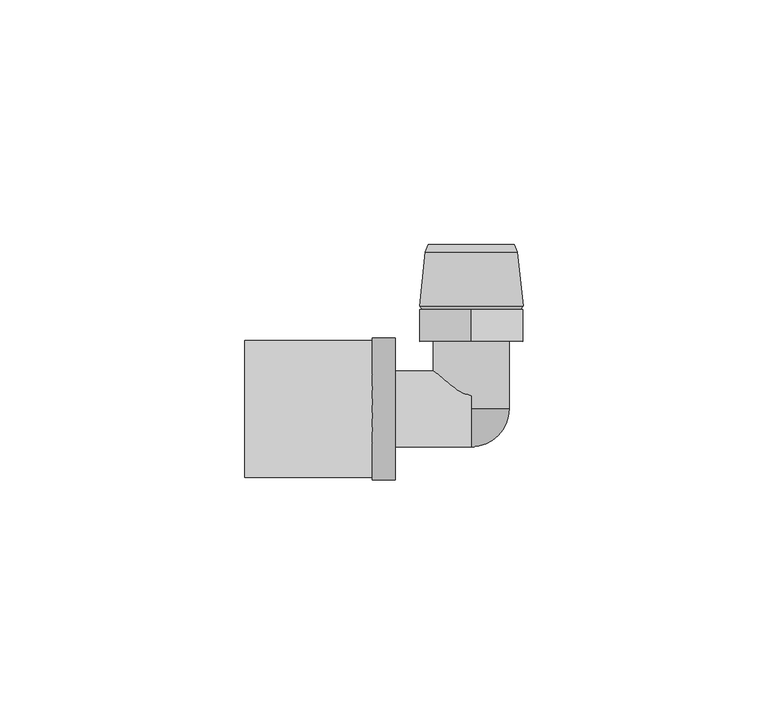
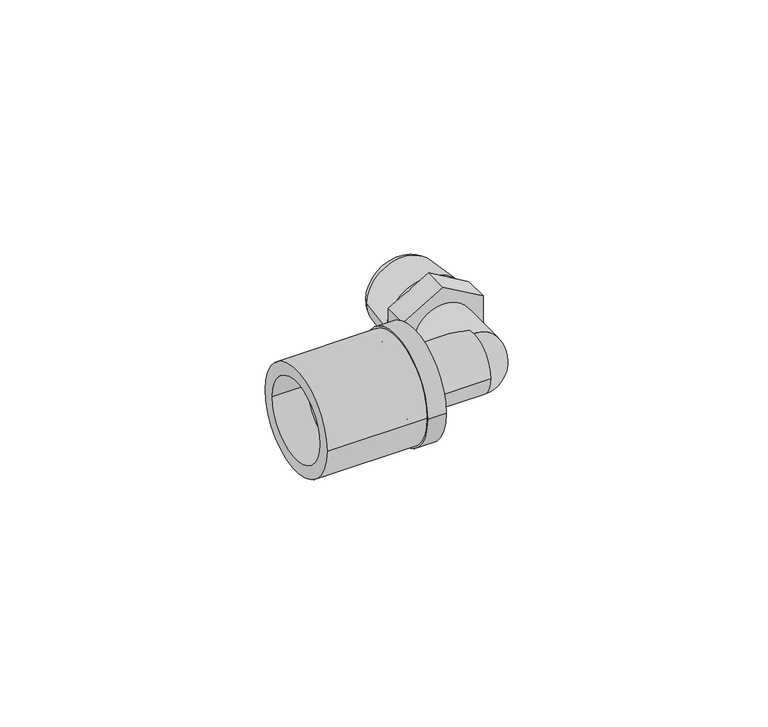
"""IFC4 building model written with IfcOpenShell, lengths in millimetres: pipe fitting geometry, FASTLOC_Elbow with male thread LX : FSL A internal CZ."""

from ifc_helpers import new_model, si_unit, point, frame, origin, origin_2d, place, context, project, spatial, polyline, circle_curve, ellipse_curve, trimmed, segment, composite_curve, outline, extrude, source, transform, mapped, element, save
from ifc_brep_helpers import plane_surface, cylinder_surface, revolved_surface, advanced_brep


def pipe_fitting_310333dd(model_context):
    return source(origin(), model_context, "Body", "SolidModel", [
        extrude(outline(composite_curve([segment(trimmed(circle_curve(origin_2d(), 14.0), [point((14.0, 0.0))], [point((-14.0, 0.0))], False, "CARTESIAN"), True, "CONTINUOUS"), segment(trimmed(circle_curve(origin_2d(), 14.0), [point((-14.0, 0.0))], [point((14.0, 0.0))], False, "CARTESIAN"), True, "CONTINUOUS")], self_intersect=False), holes=[composite_curve([segment(trimmed(circle_curve(origin_2d(), 10.7), [point((10.7, 0.0))], [point((-10.7, 0.0))], True, "CARTESIAN"), True, "CONTINUOUS"), segment(trimmed(circle_curve(origin_2d(), 10.7), [point((-10.7, 0.0))], [point((10.7, 0.0))], True, "CARTESIAN"), True, "CONTINUOUS")], self_intersect=False)]), frame((-46.2, 0.0, 0.0), z_axis=(1.0, 0.0, 0.0), x_axis=(0.0, 1.0, 0.0)), (0.0, 0.0, 1.0), 26.0),
        advanced_brep(
        [(-20.2, -14.5, 0.0), (-20.2, 14.5, 0.0), (-15.5, 14.5, 0.0), (-15.5, -14.5, 0.0), (-37.2, -11.85, 0.0), (-37.2, 11.85, 0.0), (-20.2, 11.85, 0.0), (-20.2, -11.85, 0.0), (-15.5, -10.15, 0.0), (-15.5, 10.15, 0.0), (-37.2, 10.15, 0.0), (-37.2, -10.15, 0.0)],
        [
            (0, 1, circle_curve(frame((-20.2, 0.0, 0.0), z_axis=(1.0, 0.0, 0.0), x_axis=(0.0, 1.0, 0.0)), 14.5)),
            (1, 2),
            (2, 3, circle_curve(frame((-15.5, 0.0, 0.0), z_axis=(-1.0, 0.0, 0.0), x_axis=(0.0, 1.0, 0.0)), 14.5)),
            (3, 0),
            (4, 5, circle_curve(frame((-37.2, 0.0, 0.0), z_axis=(1.0, 0.0, 0.0), x_axis=(0.0, 1.0, 0.0)), 11.85)),
            (5, 6),
            (6, 7, circle_curve(frame((-20.2, 0.0, 0.0), z_axis=(-1.0, 0.0, 0.0), x_axis=(0.0, 1.0, 0.0)), 11.85)),
            (7, 4),
            (8, 9, circle_curve(frame((-15.5, 0.0, 0.0), z_axis=(1.0, 0.0, 0.0), x_axis=(0.0, 1.0, 0.0)), 10.15)),
            (9, 10),
            (10, 11, circle_curve(frame((-37.2, 0.0, 0.0), z_axis=(-1.0, 0.0, 0.0), x_axis=(0.0, 1.0, 0.0)), 10.15)),
            (11, 8),
            (1, 0, circle_curve(frame((-20.2, 0.0, 0.0), z_axis=(1.0, 0.0, 0.0), x_axis=(0.0, -1.0, 0.0)), 14.5)),
            (3, 2, circle_curve(frame((-15.5, 0.0, 0.0), z_axis=(-1.0, 0.0, 0.0), x_axis=(0.0, -1.0, 0.0)), 14.5)),
            (6, 7, circle_curve(frame((-20.2, 0.0, 0.0), z_axis=(1.0, 0.0, 0.0), x_axis=(0.0, -1.0, 0.0)), 11.85)),
            (5, 4, circle_curve(frame((-37.2, 0.0, 0.0), z_axis=(1.0, 0.0, 0.0), x_axis=(0.0, -1.0, 0.0)), 11.85)),
            (10, 11, circle_curve(frame((-37.2, 0.0, 0.0), z_axis=(1.0, 0.0, 0.0), x_axis=(0.0, -1.0, 0.0)), 10.15)),
            (9, 8, circle_curve(frame((-15.5, 0.0, 0.0), z_axis=(1.0, 0.0, 0.0), x_axis=(0.0, -1.0, 0.0)), 10.15)),
        ],
        [
            cylinder_surface(frame((-15.5, 0.0, 0.0), z_axis=(-1.0, 0.0, 0.0), x_axis=(0.0, 1.0, 0.0)), 14.5),
            cylinder_surface(frame((-15.5, 0.0, 0.0), z_axis=(-1.0, 0.0, 0.0), x_axis=(0.0, 1.0, 0.0)), 11.85),
            revolved_surface(polyline([(-37.2, 10.15, 0.0), (-15.5, 10.15, 0.0)]), (-15.5, 0.0, 0.0), (-1.0, 0.0, 0.0)),
            cylinder_surface(frame((-15.5, 0.0, 0.0), z_axis=(-1.0, 0.0, 0.0), x_axis=(0.0, -1.0, 0.0)), 14.5),
            plane_surface(frame((-20.2, 0.0, 0.0), z_axis=(-1.0, 0.0, 0.0), x_axis=(0.0, -1.0, 0.0))),
            cylinder_surface(frame((-15.5, 0.0, 0.0), z_axis=(-1.0, 0.0, 0.0), x_axis=(0.0, -1.0, 0.0)), 11.85),
            plane_surface(frame((-37.2, 0.0, 0.0), z_axis=(-1.0, 0.0, 0.0), x_axis=(0.0, -1.0, 0.0))),
            revolved_surface(polyline([(-37.2, -10.15, 0.0), (-15.5, -10.15, 0.0)]), (-15.5, 0.0, 0.0), (-1.0, 0.0, 0.0)),
            plane_surface(frame((-15.5, 0.0, 0.0), z_axis=(1.0, 0.0, 0.0), x_axis=(0.0, -1.0, 0.0))),
        ],
        [
            (0, [[1, 2, 3, 4]]),
            (1, [[5, 6, 7, 8]]),
            (2, [[9, 10, 11, 12]]),
            (3, [[13, -4, 14, -2]]),
            (4, [[-13, -1], [15, -7]]),
            (5, [[16, -8, -15, -6]]),
            (6, [[-16, -5], [17, -11]]),
            (7, [[18, -12, -17, -10]]),
            (8, [[-14, -3], [-18, -9]]),
        ],
    ),
        advanced_brep(
        [(-20.2, 7.75, 0.0), (-20.2, -7.75, 0.0), (-37.6, -7.75, 0.0), (-37.6, 7.75, 0.0), (-17.5, 8.8, 0.0), (-17.5, -8.8, 0.0), (-20.2, -8.8, 0.0), (-20.2, 8.8, 0.0), (0.0, 7.75, 0.0), (0.0, -7.75, 0.0), (-17.5, -7.75, 0.0), (-17.5, 7.75, 0.0), (-37.6, 5.75, 0.0), (-37.6, -5.75, 0.0), (0.0, -5.75, 0.0), (0.0, 5.75, 0.0)],
        [
            (0, 1, circle_curve(frame((-20.2, 0.0, 0.0), z_axis=(-1.0, 0.0, 0.0), x_axis=(0.0, -1.0, 0.0)), 7.75)),
            (1, 2),
            (2, 3, circle_curve(frame((-37.6, 0.0, 0.0), z_axis=(1.0, 0.0, 0.0), x_axis=(0.0, -1.0, 0.0)), 7.75)),
            (3, 0),
            (4, 5, circle_curve(frame((-17.5, 0.0, 0.0), z_axis=(-1.0, 0.0, 0.0), x_axis=(0.0, -1.0, 0.0)), 8.8)),
            (5, 6),
            (6, 7, circle_curve(frame((-20.2, 0.0, 0.0), z_axis=(1.0, 0.0, 0.0), x_axis=(0.0, -1.0, 0.0)), 8.8)),
            (7, 4),
            (8, 9, circle_curve(frame((0.0, 0.0, 0.0), z_axis=(-1.0, 0.0, 0.0), x_axis=(0.0, -1.0, 0.0)), 7.75)),
            (9, 10),
            (10, 11, circle_curve(frame((-17.5, 0.0, 0.0), z_axis=(1.0, 0.0, 0.0), x_axis=(0.0, -1.0, 0.0)), 7.75)),
            (11, 8),
            (12, 13, circle_curve(frame((-37.6, 0.0, 0.0), z_axis=(-1.0, 0.0, 0.0), x_axis=(0.0, -1.0, 0.0)), 5.75)),
            (13, 14),
            (14, 15, circle_curve(frame((0.0, 0.0, 0.0), z_axis=(1.0, 0.0, 0.0), x_axis=(0.0, -1.0, 0.0)), 5.75)),
            (15, 12),
            (2, 3, circle_curve(frame((-37.6, 0.0, 0.0), z_axis=(-1.0, 0.0, 0.0), x_axis=(0.0, 1.0, 0.0)), 7.75)),
            (12, 13, circle_curve(frame((-37.6, 0.0, 0.0), z_axis=(1.0, 0.0, 0.0), x_axis=(0.0, 1.0, 0.0)), 5.75)),
            (1, 0, circle_curve(frame((-20.2, 0.0, 0.0), z_axis=(-1.0, 0.0, 0.0), x_axis=(0.0, 1.0, 0.0)), 7.75)),
            (6, 7, circle_curve(frame((-20.2, 0.0, 0.0), z_axis=(-1.0, 0.0, 0.0), x_axis=(0.0, 1.0, 0.0)), 8.8)),
            (5, 4, circle_curve(frame((-17.5, 0.0, 0.0), z_axis=(-1.0, 0.0, 0.0), x_axis=(0.0, 1.0, 0.0)), 8.8)),
            (10, 11, circle_curve(frame((-17.5, 0.0, 0.0), z_axis=(-1.0, 0.0, 0.0), x_axis=(0.0, 1.0, 0.0)), 7.75)),
            (9, 8, circle_curve(frame((0.0, 0.0, 0.0), z_axis=(-1.0, 0.0, 0.0), x_axis=(0.0, 1.0, 0.0)), 7.75)),
            (14, 15, circle_curve(frame((0.0, 0.0, 0.0), z_axis=(-1.0, 0.0, 0.0), x_axis=(0.0, 1.0, 0.0)), 5.75)),
        ],
        [
            cylinder_surface(frame((0.0, 0.0, 0.0), z_axis=(1.0, 0.0, 0.0), x_axis=(0.0, -1.0, 0.0)), 7.75),
            cylinder_surface(frame((0.0, 0.0, 0.0), z_axis=(1.0, 0.0, 0.0), x_axis=(0.0, -1.0, 0.0)), 8.8),
            revolved_surface(polyline([(0.0, -5.75, 0.0), (-37.6, -5.75, 0.0)]), (0.0, 0.0, 0.0), (1.0, 0.0, 0.0)),
            plane_surface(frame((-37.6, 0.0, 0.0), z_axis=(-1.0, 0.0, 0.0), x_axis=(0.0, 1.0, 0.0))),
            cylinder_surface(frame((0.0, 0.0, 0.0), z_axis=(1.0, 0.0, 0.0), x_axis=(0.0, 1.0, 0.0)), 7.75),
            plane_surface(frame((-20.2, 0.0, 0.0), z_axis=(-1.0, 0.0, 0.0), x_axis=(0.0, 1.0, 0.0))),
            cylinder_surface(frame((0.0, 0.0, 0.0), z_axis=(1.0, 0.0, 0.0), x_axis=(0.0, 1.0, 0.0)), 8.8),
            plane_surface(frame((-17.5, 0.0, 0.0), z_axis=(1.0, 0.0, 0.0), x_axis=(0.0, 1.0, 0.0))),
            plane_surface(frame((0.0, 0.0, 0.0), z_axis=(1.0, 0.0, 0.0), x_axis=(0.0, 1.0, 0.0))),
            revolved_surface(polyline([(0.0, 5.75, 0.0), (-37.6, 5.75, 0.0)]), (0.0, 0.0, 0.0), (1.0, 0.0, 0.0)),
        ],
        [
            (0, [[1, 2, 3, 4]]),
            (1, [[5, 6, 7, 8]]),
            (0, [[9, 10, 11, 12]]),
            (2, [[13, 14, 15, 16]]),
            (3, [[17, -3], [18, -13]]),
            (4, [[19, -4, -17, -2]]),
            (5, [[20, -7], [-19, -1]]),
            (6, [[21, -8, -20, -6]]),
            (7, [[-21, -5], [22, -11]]),
            (4, [[23, -12, -22, -10]]),
            (8, [[-23, -9], [24, -15]]),
            (9, [[-18, -16, -24, -14]]),
        ],
    ),
        advanced_brep(
        [(9.4, 32.0000007, 0.0), (-9.4, 32.0000007, 0.0), (-8.75, 33.5, 0.0), (8.75, 33.5, 0.0), (10.55, 21.0406902, 0.0), (-10.55, 21.0406902, 0.0), (10.0, 20.3, 0.0), (-10.0, 20.3, 0.0), (7.0, 21.4032803, 0.0), (-7.0, 21.4032803, 0.0), (-5.8967197, 20.3, 0.0), (5.8967197, 20.3, 0.0), (7.0, 33.5, 0.0), (-7.0, 33.5, 0.0)],
        [
            (0, 1, circle_curve(frame((0.0, 32.0000007, 0.0), z_axis=(0.0, 1.0, 0.0), x_axis=(-1.0, 0.0, 0.0)), 9.4)),
            (1, 2),
            (2, 3, circle_curve(frame((0.0, 33.5, 0.0), z_axis=(0.0, -1.0, 0.0), x_axis=(-1.0, 0.0, 0.0)), 8.75)),
            (3, 0),
            (4, 5, circle_curve(frame((0.0, 21.0406902, 0.0), z_axis=(0.0, 1.0, 0.0), x_axis=(-1.0, 0.0, 0.0)), 10.55)),
            (5, 1),
            (0, 4),
            (6, 7, circle_curve(frame((0.0, 20.3, 0.0), z_axis=(0.0, 1.0, 0.0), x_axis=(-1.0, 0.0, 0.0)), 10.0)),
            (7, 5),
            (4, 6),
            (8, 9, circle_curve(frame((0.0, 21.4032803, 0.0), z_axis=(0.0, 1.0, 0.0), x_axis=(-1.0, 0.0, 0.0)), 7.0)),
            (9, 10),
            (10, 11, circle_curve(frame((0.0, 20.3, 0.0), z_axis=(0.0, -1.0, 0.0), x_axis=(-1.0, 0.0, 0.0)), 5.8967197)),
            (11, 8),
            (12, 13, circle_curve(frame((0.0, 33.5, 0.0), z_axis=(0.0, 1.0, 0.0), x_axis=(-1.0, 0.0, 0.0)), 7.0)),
            (13, 9),
            (8, 12),
            (2, 3, circle_curve(frame((0.0, 33.5, 0.0), z_axis=(0.0, 1.0, 0.0), x_axis=(1.0, 0.0, 0.0)), 8.75)),
            (12, 13, circle_curve(frame((0.0, 33.5, 0.0), z_axis=(0.0, -1.0, 0.0), x_axis=(1.0, 0.0, 0.0)), 7.0)),
            (1, 0, circle_curve(frame((0.0, 32.0000007, 0.0), z_axis=(0.0, 1.0, 0.0), x_axis=(1.0, 0.0, 0.0)), 9.4)),
            (5, 4, circle_curve(frame((0.0, 21.0406902, 0.0), z_axis=(0.0, 1.0, 0.0), x_axis=(1.0, 0.0, 0.0)), 10.55)),
            (7, 6, circle_curve(frame((0.0, 20.3, 0.0), z_axis=(0.0, 1.0, 0.0), x_axis=(1.0, 0.0, 0.0)), 10.0)),
            (10, 11, circle_curve(frame((0.0, 20.3, 0.0), z_axis=(0.0, 1.0, 0.0), x_axis=(1.0, 0.0, 0.0)), 5.8967197)),
            (9, 8, circle_curve(frame((0.0, 21.4032803, 0.0), z_axis=(0.0, 1.0, 0.0), x_axis=(1.0, 0.0, 0.0)), 7.0)),
        ],
        [
            revolved_surface(polyline([(-8.75, 33.5, 0.0), (-9.4, 32.0000007, 0.0)]), (0.0, 13.8, 0.0), (0.0, -1.0, 0.0)),
            revolved_surface(polyline([(-9.4, 32.0000007, 0.0), (-10.55, 21.0406902, 0.0)]), (0.0, 13.8, 0.0), (0.0, -1.0, 0.0)),
            revolved_surface(polyline([(-10.55, 21.0406902, 0.0), (-10.0, 20.3, 0.0)]), (0.0, 13.8, 0.0), (0.0, -1.0, 0.0)),
            revolved_surface(polyline([(-5.8967197, 20.3, 0.0), (-7.0, 21.4032803, 0.0)]), (0.0, 13.8, 0.0), (0.0, -1.0, 0.0)),
            revolved_surface(polyline([(-7.0, 21.4032803, 0.0), (-7.0, 33.5, 0.0)]), (0.0, 13.8, 0.0), (0.0, -1.0, 0.0)),
            plane_surface(frame((0.0, 33.5, 0.0), z_axis=(0.0, 1.0, 0.0), x_axis=(1.0, 0.0, 0.0))),
            revolved_surface(polyline([(8.75, 33.5, 0.0), (9.4, 32.0000007, 0.0)]), (0.0, 13.8, 0.0), (0.0, -1.0, 0.0)),
            revolved_surface(polyline([(9.4, 32.0000007, 0.0), (10.55, 21.0406902, 0.0)]), (0.0, 13.8, 0.0), (0.0, -1.0, 0.0)),
            revolved_surface(polyline([(10.55, 21.0406902, 0.0), (10.0, 20.3, 0.0)]), (0.0, 13.8, 0.0), (0.0, -1.0, 0.0)),
            plane_surface(frame((0.0, 20.3, 0.0), z_axis=(0.0, -1.0, 0.0), x_axis=(1.0, 0.0, 0.0))),
            revolved_surface(polyline([(5.8967197, 20.3, 0.0), (7.0, 21.4032803, 0.0)]), (0.0, 13.8, 0.0), (0.0, -1.0, 0.0)),
            revolved_surface(polyline([(7.0, 21.4032803, 0.0), (7.0, 33.5, 0.0)]), (0.0, 13.8, 0.0), (0.0, -1.0, 0.0)),
        ],
        [
            (0, [[1, 2, 3, 4]]),
            (1, [[5, 6, -1, 7]]),
            (2, [[8, 9, -5, 10]]),
            (3, [[11, 12, 13, 14]]),
            (4, [[15, 16, -11, 17]]),
            (5, [[18, -3], [19, -15]]),
            (6, [[20, -4, -18, -2]]),
            (7, [[21, -7, -20, -6]]),
            (8, [[22, -10, -21, -9]]),
            (9, [[-22, -8], [23, -13]]),
            (10, [[24, -14, -23, -12]]),
            (11, [[-19, -17, -24, -16]]),
        ],
    ),
        advanced_brep(
        [(0.0, -7.75, 0.0), (0.0, 0.0, 7.75), (0.0, 0.0, 6.0), (0.0, -6.0, 0.0), (0.0, 0.0, -6.0), (0.0, 0.0, -7.75)],
        [
            (0, 1, circle_curve(frame((0.0, 0.0, 0.0), z_axis=(-1.0, 0.0, 0.0), x_axis=(0.0, 0.0, 1.0)), 7.75)),
            (1, 2),
            (2, 3, circle_curve(frame((0.0, 0.0, 0.0), z_axis=(1.0, 0.0, 0.0), x_axis=(0.0, 0.0, 1.0)), 6.0)),
            (3, 0),
            (3, 4, circle_curve(frame((0.0, 0.0, 0.0), z_axis=(1.0, 0.0, 0.0), x_axis=(0.0, 0.0, -1.0)), 6.0)),
            (4, 5),
            (5, 0, circle_curve(frame((0.0, 0.0, 0.0), z_axis=(-1.0, 0.0, 0.0), x_axis=(0.0, 0.0, -1.0)), 7.75)),
            (5, 1, circle_curve(frame((0.0, 0.0, 0.0), z_axis=(0.0, -1.0, 0.0), x_axis=(0.0, 0.0, 1.0)), 7.75)),
            (4, 2, circle_curve(frame((0.0, 0.0, 0.0), z_axis=(0.0, -1.0, 0.0), x_axis=(0.0, 0.0, 1.0)), 6.0)),
        ],
        [
            plane_surface(frame((0.0, 0.0, 0.0), z_axis=(-1.0, 0.0, 0.0), x_axis=(0.0, 0.0, 1.0))),
            plane_surface(frame((0.0, 0.0, 0.0), z_axis=(-1.0, 0.0, 0.0), x_axis=(0.0, 0.0, -1.0))),
            revolved_surface(trimmed(ellipse_curve(frame((0.0, 0.0, 0.0), z_axis=(-1.0, 0.0, 0.0), x_axis=(0.0, 0.0, 1.0)), 7.75, 7.75), [point((0.0, -7.75, 0.0))], [point((0.0, 0.0, 7.75))], True, "CARTESIAN"), (0.0, 0.0, 0.0), (0.0, 1.0, 0.0)),
            plane_surface(frame((0.0, 0.0, 0.0), z_axis=(0.0, 1.0, 0.0), x_axis=(0.0, 0.0, 1.0))),
            revolved_surface(trimmed(ellipse_curve(frame((0.0, 0.0, 0.0), z_axis=(1.0, 0.0, 0.0), x_axis=(0.0, 0.0, 1.0)), 6.0, 6.0), [point((0.0, 0.0, 6.0))], [point((0.0, -6.0, 0.0))], True, "CARTESIAN"), (0.0, 0.0, 0.0), (0.0, 1.0, 0.0)),
        ],
        [
            (0, [[1, 2, 3, 4]]),
            (1, [[5, 6, 7, -4]]),
            (2, [[8, -1, -7]]),
            (3, [[9, -2, -8, -6]]),
            (4, [[-3, -9, -5]]),
        ],
    ),
        extrude(outline(polyline([(-6.0621778, 10.5), (6.0621778, 10.5), (12.1243557, 0.0), (6.0621778, -10.5), (-6.0621778, -10.5), (-12.1243557, 0.0), (-6.0621778, 10.5)])), frame((0.0, 13.8, 0.0), z_axis=(0.0, 1.0, 0.0), x_axis=(0.0, 0.0, 1.0)), (0.0, 0.0, 1.0), 6.5),
        extrude(outline(composite_curve([segment(trimmed(circle_curve(origin_2d(), 7.75), [point((0.0, -7.75))], [point((0.0, 7.75))], False, "CARTESIAN"), True, "CONTINUOUS"), segment(trimmed(circle_curve(origin_2d(), 7.75), [point((0.0, 7.75))], [point((0.0, -7.75))], False, "CARTESIAN"), True, "CONTINUOUS")], self_intersect=False), holes=[composite_curve([segment(trimmed(circle_curve(origin_2d(), 5.75), [point((0.0, -5.75))], [point((0.0, 5.75))], True, "CARTESIAN"), True, "CONTINUOUS"), segment(trimmed(circle_curve(origin_2d(), 5.75), [point((0.0, 5.75))], [point((0.0, -5.75))], True, "CARTESIAN"), True, "CONTINUOUS")], self_intersect=False)]), frame((0.0, 0.0, 0.0), z_axis=(0.0, 1.0, 0.0), x_axis=(0.0, 0.0, 1.0)), (0.0, 0.0, 1.0), 13.8),
    ])


if __name__ == "__main__":
    model = new_model("IFC4")
    model_context = context("Model", 3, world=origin())
    ifc_project = project(units=[si_unit("LENGTHUNIT", "METRE", prefix="MILLI")], contexts=[model_context])
    site = spatial("IfcSite", under=ifc_project)
    building = spatial("IfcBuilding", under=site)
    placement = place(None, origin())
    pipe_fitting_shape = pipe_fitting_310333dd(model_context)
    element("IfcPipeFitting", 1, ObjectType="FASTLOC_Elbow with male thread LX : FSL A internal CZ", at=placement, inside=building, context=model_context, shape_type="MappedRepresentation", body=[
        mapped(pipe_fitting_shape, transform((0.0, 0.0, 0.0), x_axis=(1.0, 0.0, 0.0), y_axis=(0.0, 1.0, 0.0), z_axis=(0.0, 0.0, 1.0))),
    ])
    save(model, "model.ifc")
